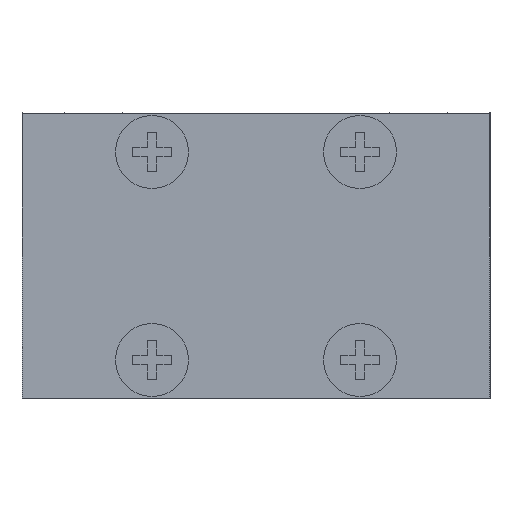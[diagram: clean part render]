
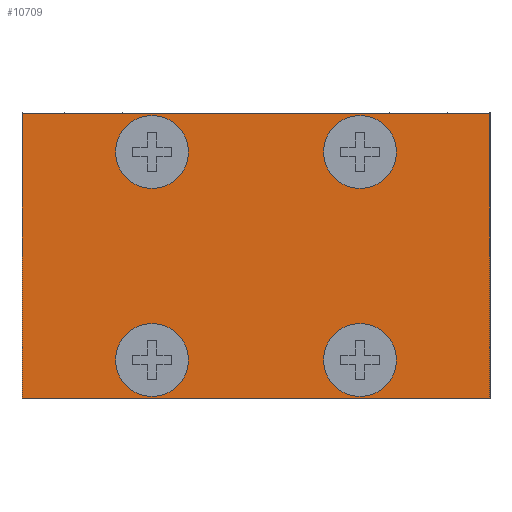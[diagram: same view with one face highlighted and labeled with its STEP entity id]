
A CAD part, left-side view. The second image highlights one B-rep face of the part: STEP entity #10709.
In plain terms, the highlighted planar face has unit normal (-1, 0, 0).
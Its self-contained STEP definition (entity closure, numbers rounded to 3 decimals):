
#521=LINE('',#13761,#1292);
#522=LINE('',#13764,#1293);
#523=LINE('',#13766,#1294);
#524=LINE('',#13768,#1295);
#1292=VECTOR('',#11942,1000.);
#1293=VECTOR('',#11943,1000.);
#1294=VECTOR('',#11944,1000.);
#1295=VECTOR('',#11945,1000.);
#2247=ORIENTED_EDGE('',*,*,#4201,.T.);
#2248=ORIENTED_EDGE('',*,*,#4202,.T.);
#2249=ORIENTED_EDGE('',*,*,#4203,.T.);
#2250=ORIENTED_EDGE('',*,*,#4204,.T.);
#2251=ORIENTED_EDGE('',*,*,#4205,.F.);
#2252=ORIENTED_EDGE('',*,*,#4206,.F.);
#2253=ORIENTED_EDGE('',*,*,#4207,.T.);
#2254=ORIENTED_EDGE('',*,*,#4208,.T.);
#4201=EDGE_CURVE('',#5211,#5211,#5861,.T.);
#4202=EDGE_CURVE('',#5212,#5212,#5862,.T.);
#4203=EDGE_CURVE('',#5213,#5214,#521,.T.);
#4204=EDGE_CURVE('',#5214,#5215,#522,.T.);
#4205=EDGE_CURVE('',#5216,#5215,#523,.T.);
#4206=EDGE_CURVE('',#5213,#5216,#524,.T.);
#4207=EDGE_CURVE('',#5217,#5217,#5863,.T.);
#4208=EDGE_CURVE('',#5218,#5218,#5864,.T.);
#5211=VERTEX_POINT('',#13758);
#5212=VERTEX_POINT('',#13760);
#5213=VERTEX_POINT('',#13762);
#5214=VERTEX_POINT('',#13763);
#5215=VERTEX_POINT('',#13765);
#5216=VERTEX_POINT('',#13767);
#5217=VERTEX_POINT('',#13770);
#5218=VERTEX_POINT('',#13772);
#5861=CIRCLE('',#11185,2.8);
#5862=CIRCLE('',#11186,2.8);
#5863=CIRCLE('',#11187,2.8);
#5864=CIRCLE('',#11188,2.8);
#6065=EDGE_LOOP('',(#2247));
#6066=EDGE_LOOP('',(#2248));
#6067=EDGE_LOOP('',(#2249,#2250,#2251,#2252));
#6068=EDGE_LOOP('',(#2253));
#6069=EDGE_LOOP('',(#2254));
#6675=FACE_BOUND('',#6065,.T.);
#6676=FACE_BOUND('',#6066,.T.);
#6677=FACE_BOUND('',#6067,.T.);
#6678=FACE_BOUND('',#6068,.T.);
#6679=FACE_BOUND('',#6069,.T.);
#7267=PLANE('',#11184);
#10709=ADVANCED_FACE('',(#6675,#6676,#6677,#6678,#6679),#7267,.T.);
#11184=AXIS2_PLACEMENT_3D('',#13756,#11936,#11937);
#11185=AXIS2_PLACEMENT_3D('',#13757,#11938,#11939);
#11186=AXIS2_PLACEMENT_3D('',#13759,#11940,#11941);
#11187=AXIS2_PLACEMENT_3D('',#13769,#11946,#11947);
#11188=AXIS2_PLACEMENT_3D('',#13771,#11948,#11949);
#11936=DIRECTION('',(-1.,0.,0.));
#11937=DIRECTION('',(0.,-1.,0.));
#11938=DIRECTION('',(1.,0.,0.));
#11939=DIRECTION('',(0.,1.,0.));
#11940=DIRECTION('',(1.,0.,0.));
#11941=DIRECTION('',(0.,1.,0.));
#11942=DIRECTION('',(0.,-1.,0.));
#11943=DIRECTION('',(0.,0.,1.));
#11944=DIRECTION('',(0.,-1.,0.));
#11945=DIRECTION('',(0.,0.,1.));
#11946=DIRECTION('',(1.,0.,0.));
#11947=DIRECTION('',(0.,1.,0.));
#11948=DIRECTION('',(1.,0.,0.));
#11949=DIRECTION('',(0.,1.,0.));
#13756=CARTESIAN_POINT('',(-76.,18.,-11.));
#13757=CARTESIAN_POINT('',(-76.,8.,-8.));
#13758=CARTESIAN_POINT('',(-76.,10.8,-8.));
#13759=CARTESIAN_POINT('',(-76.,-8.,-8.));
#13760=CARTESIAN_POINT('',(-76.,-5.2,-8.));
#13761=CARTESIAN_POINT('',(-76.,18.,-11.));
#13762=CARTESIAN_POINT('',(-76.,18.,-11.));
#13763=CARTESIAN_POINT('',(-76.,-18.,-11.));
#13764=CARTESIAN_POINT('',(-76.,-18.,-11.));
#13765=CARTESIAN_POINT('',(-76.,-18.,11.));
#13766=CARTESIAN_POINT('',(-76.,18.,11.));
#13767=CARTESIAN_POINT('',(-76.,18.,11.));
#13768=CARTESIAN_POINT('',(-76.,18.,-11.));
#13769=CARTESIAN_POINT('',(-76.,-8.,8.));
#13770=CARTESIAN_POINT('',(-76.,-5.2,8.));
#13771=CARTESIAN_POINT('',(-76.,8.,8.));
#13772=CARTESIAN_POINT('',(-76.,10.8,8.));
